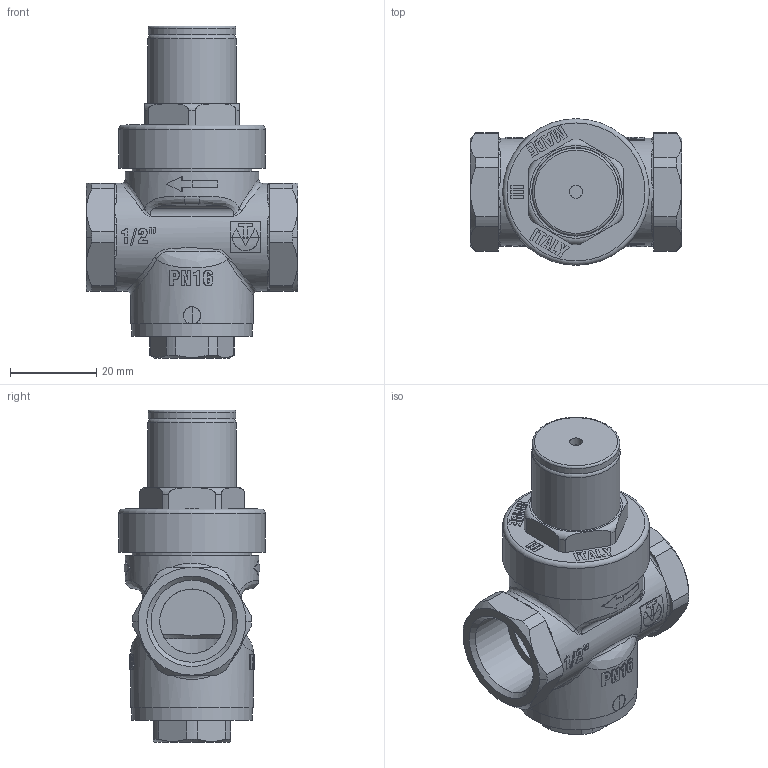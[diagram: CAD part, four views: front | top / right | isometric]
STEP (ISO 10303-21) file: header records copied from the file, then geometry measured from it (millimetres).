
FILE_DESCRIPTION(('TFLEX Exchange Step'),'2;1');
FILE_NAME('Pressure reducing valve 1_2 VT.086.N.04 Valtec.stp', '2023-09-12T11:29:32+03:00',('denis'),('Unknown organisation'),'TFLEX Exchange 2023.0','T-FLEX CAD','Unknown authorisation');
FILE_SCHEMA( ('AUTOMOTIVE_DESIGN { 1 0 10303 214 1 1 1 1 }') );
Length unit declared in the file: millimetre
Products named in the file (1): Nodes
Bounding box: 49 x 34 x 77 mm (x, y, z)
Volume: 29682.2 mm3; surface area: 20177.3 mm2
Topology: 3 solids, 3 shells, 598 faces, 1615 edges, 1046 vertices
Faces by surface type: plane 294, bspline 150, cylinder 106, torus 26, cone 22
Full cylindrical faces by diameter (mm): 2 x1, 3 x1, 5.8 x1, 8 x1, 9.5 x1, 11 x1, 11.5 x1, 12 x1, 15 x4, 19 x2, 20.3 x1, 20.5 x1, 22.5 x1, 24.5 x1, 25 x1, 27.8 x1, 28 x2, 28.5 x1, 31 x1, 34 x1
Entity records: 25868 total; most frequent: CARTESIAN_POINT 11687, ORIENTED_EDGE 3174, DIRECTION 2523, EDGE_CURVE 1587, VERTEX_POINT 1046, AXIS2_PLACEMENT_3D 848, VECTOR 827, LINE 827
